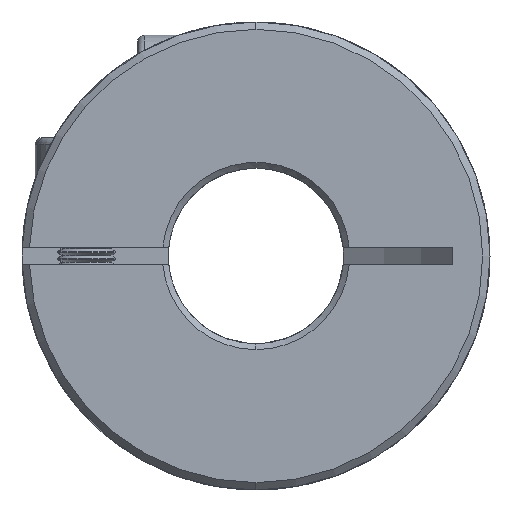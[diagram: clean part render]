
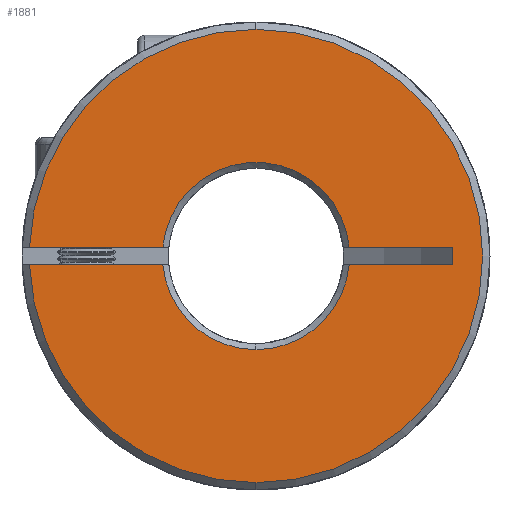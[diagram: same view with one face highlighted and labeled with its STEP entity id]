
A CAD part, front view. The second image highlights one B-rep face of the part: STEP entity #1881.
In plain terms, the highlighted planar face has unit normal (0, -1, 0).
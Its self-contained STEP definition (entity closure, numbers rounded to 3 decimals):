
#62 = VECTOR ( 'NONE', #5533, 1000. ) ;
#86 = CARTESIAN_POINT ( 'NONE',  ( -50., 0., 0.6 ) ) ;
#101 = CARTESIAN_POINT ( 'NONE',  ( -6.372, 0., -0.6 ) ) ;
#257 = DIRECTION ( 'NONE',  ( 0., 0., -1. ) ) ;
#595 = ORIENTED_EDGE ( 'NONE', *, *, #2171, .T. ) ;
#635 = PLANE ( 'NONE',  #7161 ) ;
#923 = VECTOR ( 'NONE', #8819, 1000. ) ;
#964 = CARTESIAN_POINT ( 'NONE',  ( 13.436, 0., 0.6 ) ) ;
#1014 = VERTEX_POINT ( 'NONE', #3188 ) ;
#1087 = VECTOR ( 'NONE', #257, 1000. ) ;
#1200 = CARTESIAN_POINT ( 'NONE',  ( 0., 0., 0. ) ) ;
#1217 = DIRECTION ( 'NONE',  ( 1., 0., 0. ) ) ;
#1218 = LINE ( 'NONE', #10597, #1087 ) ;
#1256 = CARTESIAN_POINT ( 'NONE',  ( 6.372, 0., 0.6 ) ) ;
#1279 = DIRECTION ( 'NONE',  ( 0., -1., 0. ) ) ;
#1425 = ORIENTED_EDGE ( 'NONE', *, *, #8349, .F. ) ;
#1432 = ORIENTED_EDGE ( 'NONE', *, *, #5292, .T. ) ;
#1456 = FACE_OUTER_BOUND ( 'NONE', #2368, .T. ) ;
#1729 = VECTOR ( 'NONE', #10894, 1000. ) ;
#1881 = ADVANCED_FACE ( 'NONE', ( #1456 ), #635, .F. ) ;
#1990 = CARTESIAN_POINT ( 'NONE',  ( 0., 0., 15.5 ) ) ;
#2171 = EDGE_CURVE ( 'NONE', #6756, #1014, #6960, .T. ) ;
#2249 = EDGE_CURVE ( 'NONE', #8095, #3382, #4005, .T. ) ;
#2265 = VECTOR ( 'NONE', #1217, 1000. ) ;
#2319 = DIRECTION ( 'NONE',  ( 0., 1., 0. ) ) ;
#2337 = CARTESIAN_POINT ( 'NONE',  ( -50., 0., -18.413 ) ) ;
#2368 = EDGE_LOOP ( 'NONE', ( #1425, #595, #4500, #7058, #1432, #3816, #4347, #10138, #5331, #3900, #9650 ) ) ;
#2399 = DIRECTION ( 'NONE',  ( 0., 0., 1. ) ) ;
#2581 = CARTESIAN_POINT ( 'NONE',  ( 13.436, 0., -0.6 ) ) ;
#2827 = AXIS2_PLACEMENT_3D ( 'NONE', #4707, #1279, #7296 ) ;
#2942 = CARTESIAN_POINT ( 'NONE',  ( -15.488, 0., 0.6 ) ) ;
#2989 = CARTESIAN_POINT ( 'NONE',  ( 0., 0., 0. ) ) ;
#3005 = EDGE_CURVE ( 'NONE', #5211, #3382, #1218, .T. ) ;
#3188 = CARTESIAN_POINT ( 'NONE',  ( 0., 0., -15.5 ) ) ;
#3200 = LINE ( 'NONE', #86, #923 ) ;
#3382 = VERTEX_POINT ( 'NONE', #2581 ) ;
#3483 = CIRCLE ( 'NONE', #5978, 6.4 ) ;
#3623 = DIRECTION ( 'NONE',  ( 0., 0., 1. ) ) ;
#3665 = EDGE_CURVE ( 'NONE', #4514, #6914, #7011, .T. ) ;
#3668 = DIRECTION ( 'NONE',  ( 0., 0., 1. ) ) ;
#3816 = ORIENTED_EDGE ( 'NONE', *, *, #4678, .T. ) ;
#3900 = ORIENTED_EDGE ( 'NONE', *, *, #10555, .T. ) ;
#4005 = LINE ( 'NONE', #8237, #1729 ) ;
#4081 = DIRECTION ( 'NONE',  ( 0., 0., 1. ) ) ;
#4347 = ORIENTED_EDGE ( 'NONE', *, *, #5640, .T. ) ;
#4361 = CARTESIAN_POINT ( 'NONE',  ( -50., 0., -0.6 ) ) ;
#4500 = ORIENTED_EDGE ( 'NONE', *, *, #5274, .T. ) ;
#4514 = VERTEX_POINT ( 'NONE', #6827 ) ;
#4645 = LINE ( 'NONE', #4361, #62 ) ;
#4655 = DIRECTION ( 'NONE',  ( 0., -1., 0. ) ) ;
#4678 = EDGE_CURVE ( 'NONE', #6636, #10815, #7255, .T. ) ;
#4705 = LINE ( 'NONE', #8034, #2265 ) ;
#4707 = CARTESIAN_POINT ( 'NONE',  ( 0., 0., 0. ) ) ;
#5211 = VERTEX_POINT ( 'NONE', #964 ) ;
#5274 = EDGE_CURVE ( 'NONE', #1014, #7015, #6847, .T. ) ;
#5292 = EDGE_CURVE ( 'NONE', #8375, #6636, #4705, .T. ) ;
#5331 = ORIENTED_EDGE ( 'NONE', *, *, #2249, .F. ) ;
#5494 = CARTESIAN_POINT ( 'NONE',  ( 0., 0., 0. ) ) ;
#5533 = DIRECTION ( 'NONE',  ( 1., 0., 0. ) ) ;
#5546 = DIRECTION ( 'NONE',  ( 0., 0., 1. ) ) ;
#5640 = EDGE_CURVE ( 'NONE', #10815, #5211, #3200, .T. ) ;
#5978 = AXIS2_PLACEMENT_3D ( 'NONE', #7088, #7160, #3623 ) ;
#6636 = VERTEX_POINT ( 'NONE', #7399 ) ;
#6756 = VERTEX_POINT ( 'NONE', #10931 ) ;
#6827 = CARTESIAN_POINT ( 'NONE',  ( 0., 0., -6.4 ) ) ;
#6847 = CIRCLE ( 'NONE', #10534, 15.5 ) ;
#6914 = VERTEX_POINT ( 'NONE', #101 ) ;
#6960 = CIRCLE ( 'NONE', #2827, 15.5 ) ;
#7011 = CIRCLE ( 'NONE', #9130, 6.4 ) ;
#7015 = VERTEX_POINT ( 'NONE', #1990 ) ;
#7058 = ORIENTED_EDGE ( 'NONE', *, *, #9871, .T. ) ;
#7088 = CARTESIAN_POINT ( 'NONE',  ( 0., 0., 0. ) ) ;
#7111 = AXIS2_PLACEMENT_3D ( 'NONE', #2989, #2319, #2399 ) ;
#7131 = CARTESIAN_POINT ( 'NONE',  ( 0., 0., 0. ) ) ;
#7160 = DIRECTION ( 'NONE',  ( 0., 1., 0. ) ) ;
#7161 = AXIS2_PLACEMENT_3D ( 'NONE', #2337, #8358, #4081 ) ;
#7219 = DIRECTION ( 'NONE',  ( 0., -1., 0. ) ) ;
#7255 = CIRCLE ( 'NONE', #7111, 6.4 ) ;
#7296 = DIRECTION ( 'NONE',  ( 0., 0., 1. ) ) ;
#7313 = DIRECTION ( 'NONE',  ( 0., 0., 1. ) ) ;
#7399 = CARTESIAN_POINT ( 'NONE',  ( -6.372, 0., 0.6 ) ) ;
#8034 = CARTESIAN_POINT ( 'NONE',  ( -50., 0., 0.6 ) ) ;
#8095 = VERTEX_POINT ( 'NONE', #9103 ) ;
#8237 = CARTESIAN_POINT ( 'NONE',  ( -50., 0., -0.6 ) ) ;
#8349 = EDGE_CURVE ( 'NONE', #6756, #6914, #4645, .T. ) ;
#8358 = DIRECTION ( 'NONE',  ( 0., 1., 0. ) ) ;
#8375 = VERTEX_POINT ( 'NONE', #2942 ) ;
#8819 = DIRECTION ( 'NONE',  ( 1., 0., 0. ) ) ;
#8901 = AXIS2_PLACEMENT_3D ( 'NONE', #1200, #7219, #5546 ) ;
#8941 = DIRECTION ( 'NONE',  ( 0., 1., 0. ) ) ;
#9103 = CARTESIAN_POINT ( 'NONE',  ( 6.372, 0., -0.6 ) ) ;
#9130 = AXIS2_PLACEMENT_3D ( 'NONE', #7131, #8941, #3668 ) ;
#9650 = ORIENTED_EDGE ( 'NONE', *, *, #3665, .T. ) ;
#9871 = EDGE_CURVE ( 'NONE', #7015, #8375, #10563, .T. ) ;
#10138 = ORIENTED_EDGE ( 'NONE', *, *, #3005, .T. ) ;
#10534 = AXIS2_PLACEMENT_3D ( 'NONE', #5494, #4655, #7313 ) ;
#10555 = EDGE_CURVE ( 'NONE', #8095, #4514, #3483, .T. ) ;
#10563 = CIRCLE ( 'NONE', #8901, 15.5 ) ;
#10597 = CARTESIAN_POINT ( 'NONE',  ( 13.436, 0., -0.6 ) ) ;
#10815 = VERTEX_POINT ( 'NONE', #1256 ) ;
#10894 = DIRECTION ( 'NONE',  ( 1., 0., 0. ) ) ;
#10931 = CARTESIAN_POINT ( 'NONE',  ( -15.488, 0., -0.6 ) ) ;
